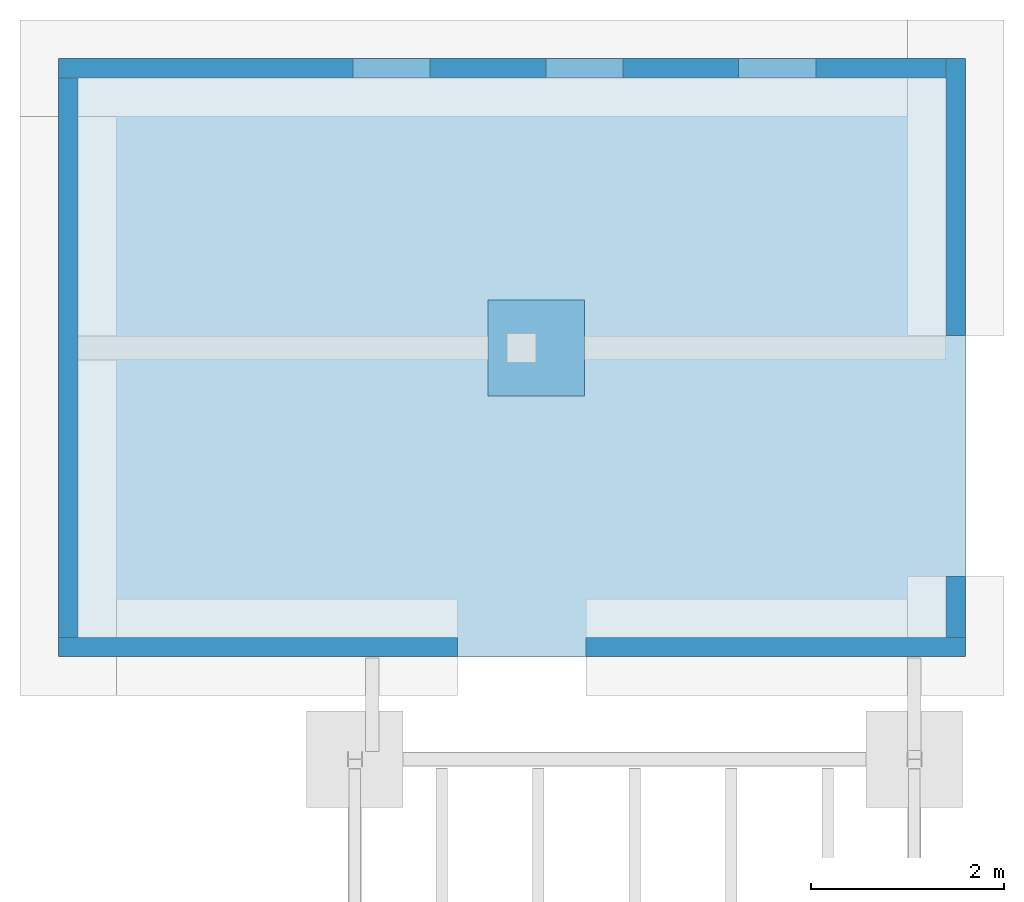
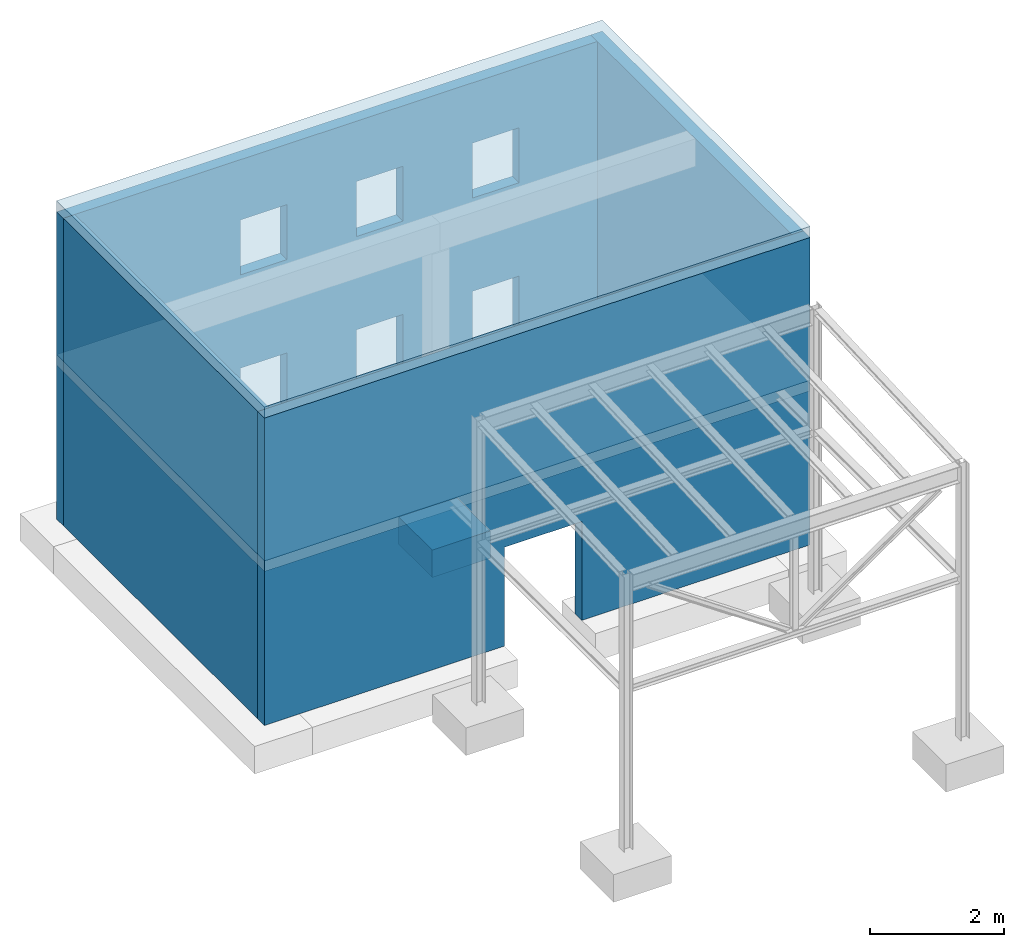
# Not in any storey, part 2 of 2: 4 walls, 3 slabs, 8 openings.
"""IFC2X3 building model written with IfcOpenShell, lengths in metres."""

from ifc_helpers import new_model, entity, si_unit, converted_unit, derived_unit, direction, frame, frame_2d, origin, origin_2d_with_axis, place, context, subcontext, project, spatial, polyline, rectangle, extrude, clip, bounded_halfspace, material, layer, layer_set, layer_usage, type_object, element, save


model = new_model("IFC2X3")

# Units and contexts
model_context = context("Model", 3, precision=1e-05, world=origin(), true_north=direction((6.12303176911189e-17, 1.0)))
body_context = subcontext(model_context, "Body", "Model", "MODEL_VIEW")
ifc_project = project(units=[si_unit("LENGTHUNIT", "METRE"), si_unit("AREAUNIT", "SQUARE_METRE"), si_unit("VOLUMEUNIT", "CUBIC_METRE"), converted_unit("PLANEANGLEUNIT", "DEGREE", entity("IfcRatioMeasure", 0.0174532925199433), si_unit("PLANEANGLEUNIT", "RADIAN"), dimensions=[0, 0, 0, 0, 0, 0, 0]), si_unit("MASSUNIT", "GRAM", prefix="KILO"), derived_unit("MASSDENSITYUNIT", [(si_unit("MASSUNIT", "GRAM", prefix="KILO"), 1), (si_unit("LENGTHUNIT", "METRE"), -3)]), si_unit("TIMEUNIT", "SECOND"), si_unit("FREQUENCYUNIT", "HERTZ"), si_unit("THERMODYNAMICTEMPERATUREUNIT", "DEGREE_CELSIUS"), derived_unit("THERMALTRANSMITTANCEUNIT", [(si_unit("MASSUNIT", "GRAM", prefix="KILO"), 1), (si_unit("THERMODYNAMICTEMPERATUREUNIT", "KELVIN"), -1), (si_unit("TIMEUNIT", "SECOND"), -3)]), derived_unit("VOLUMETRICFLOWRATEUNIT", [(si_unit("LENGTHUNIT", "METRE"), 3), (si_unit("TIMEUNIT", "SECOND"), -1)]), si_unit("ELECTRICCURRENTUNIT", "AMPERE"), si_unit("ELECTRICVOLTAGEUNIT", "VOLT"), si_unit("POWERUNIT", "WATT"), si_unit("FORCEUNIT", "NEWTON", prefix="KILO"), si_unit("ILLUMINANCEUNIT", "LUX"), si_unit("LUMINOUSFLUXUNIT", "LUMEN"), si_unit("LUMINOUSINTENSITYUNIT", "CANDELA"), derived_unit("USERDEFINED", [(si_unit("MASSUNIT", "GRAM", prefix="KILO"), -1), (si_unit("LENGTHUNIT", "METRE"), -2), (si_unit("TIMEUNIT", "SECOND"), 3), (si_unit("LUMINOUSFLUXUNIT", "LUMEN"), 1)]), derived_unit("LINEARVELOCITYUNIT", [(si_unit("LENGTHUNIT", "METRE"), 1), (si_unit("TIMEUNIT", "SECOND"), -1)]), si_unit("PRESSUREUNIT", "PASCAL"), derived_unit("USERDEFINED", [(si_unit("LENGTHUNIT", "METRE"), -2), (si_unit("MASSUNIT", "GRAM", prefix="KILO"), 1), (si_unit("TIMEUNIT", "SECOND"), -2)])], contexts=[model_context])

# Site, building
site_placement = place(None, frame((4.52949330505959e-05, 1.90131286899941e-05, 0.0)))
site = spatial("IfcSite", under=ifc_project, at=site_placement, Name="Default", CompositionType="ELEMENT")
building_placement = place(site_placement, origin())
building = spatial("IfcBuilding", under=site, at=building_placement, CompositionType="ELEMENT")

# Slabs
ifc_material_1 = material(Name="Ortbeton - bewehrt")
ifc_layer_1 = layer(ifc_material_1, 0.2)
ifc_layer_set_1 = layer_set([ifc_layer_1], Name="Geschossdecke:STB 200")
ifc_layer_usage_1 = layer_usage(ifc_layer_set_1, "AXIS3", "POSITIVE", 0.0)
slab_type_1 = type_object("IfcSlabType", Name="Geschossdecke:STB 200", PredefinedType="FLOOR", material=ifc_layer_set_1)
slab_1_placement = place(None, origin())
element("IfcSlab", 1, at=slab_1_placement, inside=building, type_object=slab_type_1, material=ifc_layer_usage_1, Name="Geschossdecke:STB 200", ObjectType="Geschossdecke:STB 200", PredefinedType="FLOOR", context=body_context, shape_type="SweptSolid", body=[
    extrude(rectangle(XDim=6.20000000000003, YDim=9.39999999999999, at=frame_2d((1.11022302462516e-15, 0.0), x_axis=(1.0, 0.0))), frame((2.8281312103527, 9.56437460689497, 5.8), z_axis=(0.0, 0.0, -1.0), x_axis=(0.0, 1.0, 0.0)), (0.0, 0.0, 1.0), 0.2),
])
ifc_layer_usage_2 = layer_usage(ifc_layer_set_1, "AXIS3", "POSITIVE", 0.0)
slab_type_2 = type_object("IfcSlabType", Name="Geschossdecke:STB 200", PredefinedType="FLOOR", material=ifc_layer_set_1)
slab_2_placement = place(None, origin())
element("IfcSlab", 2, at=slab_2_placement, inside=building, type_object=slab_type_2, material=ifc_layer_usage_2, Name="Geschossdecke:STB 200", ObjectType="Geschossdecke:STB 200", PredefinedType="FLOOR", context=body_context, shape_type="SweptSolid", body=[
    extrude(rectangle(XDim=6.20000000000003, YDim=9.39999999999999, at=frame_2d((1.11022302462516e-15, 0.0), x_axis=(1.0, 0.0))), frame((2.82813121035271, 9.56437460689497, 3.0), z_axis=(0.0, 0.0, -1.0), x_axis=(0.0, 1.0, 0.0)), (0.0, 0.0, 1.0), 0.2),
])
slab_type_3 = type_object("IfcSlabType", Name="STB 1800 x 1800 x 700", PredefinedType="FLOOR")
slab_3_placement = place(None, origin())
element("IfcSlab", 3, at=slab_3_placement, inside=building, type_object=slab_type_3, Name="Einzelfundament:STB 1800 x 1800 x 700", ObjectType="Einzelfundament:STB 1800 x 1800 x 700", PredefinedType="FLOOR", context=body_context, shape_type="SweptSolid", body=[
    extrude(rectangle(XDim=1.0, YDim=1.0, at=frame_2d((-2.4980018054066e-16, 0.0), x_axis=(1.0, 0.0))), frame((3.07813121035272, 9.66437460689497, -0.500000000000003), z_axis=(0.0, 0.0, 1.0), x_axis=(-1.0, 0.0, 0.0)), (0.0, 0.0, 1.0), 0.500000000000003),
])

# Wall, opening
ifc_material_2 = material(Name="Ortbeton - bewehrt Verputzt")
ifc_layer_2 = layer(ifc_material_2, 0.2)
ifc_layer_set_2 = layer_set([ifc_layer_2], Name="Basiswand:STB 200")
ifc_layer_usage_3 = layer_usage(ifc_layer_set_2, "AXIS2", "NEGATIVE", 0.1)
wall_type = type_object("IfcWallType", Name="Basiswand:STB 200", PredefinedType="STANDARD", material=ifc_layer_set_2)
wall_1_placement = place(None, frame((-1.8718687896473, 6.56437460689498, 0.0)))
wall_1 = element("IfcWallStandardCase", 4, at=wall_1_placement, inside=building, type_object=wall_type, material=ifc_layer_usage_3, Name="Basiswand:STB 200", ObjectType="Basiswand:STB 200", context=body_context, shape_type="Clipping", body=[
    clip(extrude(rectangle(XDim=9.4, YDim=0.2, at=frame_2d((4.7, 6.93889390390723e-18), x_axis=(-1.0, 0.0))), origin(), (0.0, 0.0, 1.0), 5.6), bounded_halfspace(frame((0.0, -0.1, 5.6), z_axis=(0.0, 0.0, -1.0), x_axis=(0.0, -1.0, 0.0)), True, frame((0.0, -0.1, 5.6)), polyline([(0.0, 0.0), (9.4, 0.0), (9.4, 0.2), (9.2, 0.2), (0.199999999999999, 0.2), (0.0, 0.2), (0.0, 0.0)]))),
])
opening_1_placement = place(wall_1_placement, origin())
element("IfcOpeningElement", 5, at=opening_1_placement, inside=building, cuts=wall_1, Name="Basiswand:STB 200", ObjectType="Opening", context=body_context, shape_type="SweptSolid", body=[
    extrude(rectangle(XDim=1.8, YDim=1.33640057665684, at=frame_2d((0.0, 1.66533453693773e-16), x_axis=(1.0, 0.0))), frame((4.80140608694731, -0.0999999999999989, 0.9), z_axis=(0.0, 1.0, 0.0), x_axis=(0.0, 0.0, -1.0)), (0.0, 0.0, 1.0), 0.2),
])

ifc_layer_usage_4 = layer_usage(ifc_layer_set_2, "AXIS2", "NEGATIVE", 0.1)
wall_2_placement = place(None, frame((7.4281312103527, 6.66437460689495, 0.0), z_axis=(0.0, 0.0, 1.0), x_axis=(0.0, 1.0, 0.0)))
wall_2 = element("IfcWallStandardCase", 6, at=wall_2_placement, inside=building, type_object=wall_type, material=ifc_layer_usage_4, Name="Basiswand:STB 200", ObjectType="Basiswand:STB 200", context=body_context, shape_type="Clipping", body=[
    clip(extrude(rectangle(XDim=6.00000000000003, YDim=0.2, at=frame_2d((3.00000000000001, -4.44089209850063e-16), x_axis=(-1.0, 0.0))), origin(), (0.0, 0.0, 1.0), 5.6), bounded_halfspace(frame((0.0, -0.0999999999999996, 5.6), z_axis=(0.0, 0.0, -1.0), x_axis=(-1.0, 0.0, 0.0)), True, frame((0.0, -0.0999999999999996, 5.6)), polyline([(0.0, 0.0), (6.0, 0.0), (6.0, 0.199999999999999), (5.8, 0.199999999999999), (0.0, 0.2), (0.0, 0.0)]))),
])
opening_2_placement = place(wall_2_placement, origin())
element("IfcOpeningElement", 7, at=opening_2_placement, inside=building, cuts=wall_2, Name="Basiswand:STB 200", ObjectType="Opening", context=body_context, shape_type="SweptSolid", body=[
    extrude(rectangle(XDim=1.8, YDim=2.5, at=frame_2d((0.0, 1.11022302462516e-15), x_axis=(1.0, 0.0))), frame((1.87985954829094, -0.100000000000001, 0.9), z_axis=(0.0, 1.0, 0.0), x_axis=(0.0, 0.0, -1.0)), (0.0, 0.0, 1.0), 0.2),
])

# Wall, openings
ifc_layer_usage_5 = layer_usage(ifc_layer_set_2, "AXIS2", "NEGATIVE", 0.1)
wall_3_placement = place(None, frame((7.32813121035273, 12.564374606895, 0.0), z_axis=(0.0, 0.0, 1.0), x_axis=(-1.0, 0.0, 0.0)))
wall_3 = element("IfcWallStandardCase", 8, at=wall_3_placement, inside=building, type_object=wall_type, material=ifc_layer_usage_5, Name="Basiswand:STB 200", ObjectType="Basiswand:STB 200", context=body_context, shape_type="Clipping", body=[
    clip(extrude(rectangle(XDim=9.20000000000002, YDim=0.199999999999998, at=frame_2d((4.60000000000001, 1.52655665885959e-16), x_axis=(-1.0, 0.0))), origin(), (0.0, 0.0, 1.0), 5.6), bounded_halfspace(frame((0.0, -0.100000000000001, 5.6), z_axis=(0.0, 0.0, -1.0), x_axis=(0.0, 1.0, 0.0)), True, frame((0.0, -0.100000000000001, 5.6)), polyline([(0.0, 0.0), (9.20000000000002, 0.0), (9.20000000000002, 0.2), (9.0, 0.199999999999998), (0.0, 0.2), (0.0, 0.0)]))),
])
opening_3_placement = place(wall_3_placement, origin())
element("IfcOpeningElement", 9, at=opening_3_placement, inside=building, cuts=wall_3, Name="Basiswand:STB 200", ObjectType="Opening", context=body_context, shape_type="SweptSolid", body=[
    extrude(rectangle(XDim=0.999999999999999, YDim=0.8, at=origin_2d_with_axis()), frame((5.74969629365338, -0.0999999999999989, 4.0), z_axis=(0.0, 1.0, 0.0), x_axis=(0.0, 0.0, -1.0)), (0.0, 0.0, 1.0), 0.199999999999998),
])
opening_4_placement = place(wall_3_placement, origin())
element("IfcOpeningElement", 10, at=opening_4_placement, inside=building, cuts=wall_3, Name="Basiswand:STB 200", ObjectType="Opening", context=body_context, shape_type="SweptSolid", body=[
    extrude(rectangle(XDim=0.999999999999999, YDim=0.8, at=origin_2d_with_axis()), frame((3.74969629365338, -0.100000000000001, 4.0), z_axis=(0.0, 1.0, 0.0), x_axis=(0.0, 0.0, -1.0)), (0.0, 0.0, 1.0), 0.200000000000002),
])
opening_5_placement = place(wall_3_placement, origin())
element("IfcOpeningElement", 11, at=opening_5_placement, inside=building, cuts=wall_3, Name="Basiswand:STB 200", ObjectType="Opening", context=body_context, shape_type="SweptSolid", body=[
    extrude(rectangle(XDim=0.999999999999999, YDim=0.8, at=origin_2d_with_axis()), frame((1.74969629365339, -0.0999999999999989, 4.0), z_axis=(0.0, 1.0, 0.0), x_axis=(0.0, 0.0, -1.0)), (0.0, 0.0, 1.0), 0.199999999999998),
])
opening_6_placement = place(wall_3_placement, origin())
element("IfcOpeningElement", 12, at=opening_6_placement, inside=building, cuts=wall_3, Name="Basiswand:STB 200", ObjectType="Opening", context=body_context, shape_type="SweptSolid", body=[
    extrude(rectangle(XDim=0.999999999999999, YDim=0.8, at=origin_2d_with_axis()), frame((5.74969629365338, -0.0999999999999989, 1.3), z_axis=(0.0, 1.0, 0.0), x_axis=(0.0, 0.0, -1.0)), (0.0, 0.0, 1.0), 0.199999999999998),
])
opening_7_placement = place(wall_3_placement, origin())
element("IfcOpeningElement", 13, at=opening_7_placement, inside=building, cuts=wall_3, Name="Basiswand:STB 200", ObjectType="Opening", context=body_context, shape_type="SweptSolid", body=[
    extrude(rectangle(XDim=0.999999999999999, YDim=0.8, at=origin_2d_with_axis()), frame((3.74969629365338, -0.100000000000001, 1.3), z_axis=(0.0, 1.0, 0.0), x_axis=(0.0, 0.0, -1.0)), (0.0, 0.0, 1.0), 0.200000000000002),
])
opening_8_placement = place(wall_3_placement, origin())
element("IfcOpeningElement", 14, at=opening_8_placement, inside=building, cuts=wall_3, Name="Basiswand:STB 200", ObjectType="Opening", context=body_context, shape_type="SweptSolid", body=[
    extrude(rectangle(XDim=0.999999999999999, YDim=0.8, at=origin_2d_with_axis()), frame((1.74969629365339, -0.0999999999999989, 1.3), z_axis=(0.0, 1.0, 0.0), x_axis=(0.0, 0.0, -1.0)), (0.0, 0.0, 1.0), 0.199999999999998),
])

# Wall
ifc_layer_usage_6 = layer_usage(ifc_layer_set_2, "AXIS2", "NEGATIVE", 0.1)
wall_4_placement = place(None, frame((-1.77186878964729, 12.464374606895, 0.0), z_axis=(0.0, 0.0, 1.0), x_axis=(0.0, -1.0, 0.0)))
element("IfcWallStandardCase", 15, at=wall_4_placement, inside=building, type_object=wall_type, material=ifc_layer_usage_6, Name="Basiswand:STB 200", ObjectType="Basiswand:STB 200", context=body_context, shape_type="Clipping", body=[
    clip(extrude(rectangle(XDim=5.8, YDim=0.2, at=frame_2d((2.9, -4.16333634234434e-17), x_axis=(-1.0, 0.0))), origin(), (0.0, 0.0, 1.0), 5.6), bounded_halfspace(frame((0.0, -0.1, 5.6), z_axis=(0.0, 0.0, -1.0), x_axis=(1.0, 0.0, 0.0)), True, frame((0.0, -0.1, 5.6)), polyline([(0.0, 0.0), (5.8, 0.0), (5.8, 0.2), (0.0, 0.2), (0.0, 0.0)]))),
])

save(model, "model.ifc")
